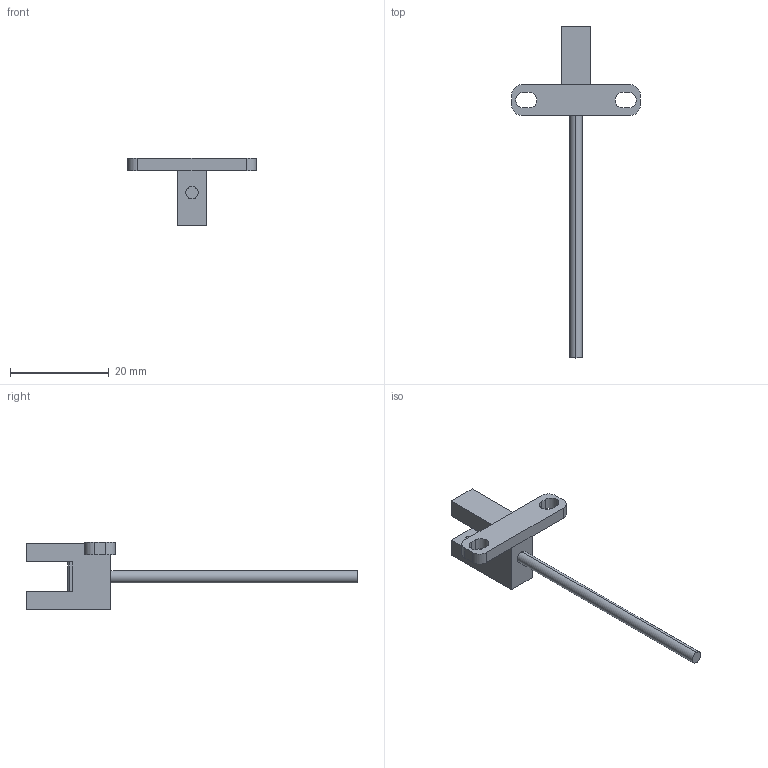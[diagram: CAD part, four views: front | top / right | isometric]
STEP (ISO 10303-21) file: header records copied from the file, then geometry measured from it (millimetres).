
FILE_DESCRIPTION (( 'STEP AP203' ), '1' );
FILE_NAME ('pm-t45.STEP', '2015-03-16T10:32:16', ( '' ), ( '' ), 'SwSTEP 2.0', 'SolidWorks 2010', '' );
FILE_SCHEMA (( 'CONFIG_CONTROL_DESIGN' ));
Length unit declared in the file: millimetre
Products named in the file (1): pm-t45
Bounding box: 26 x 67.2 x 13.7 mm (x, y, z)
Volume: 1585.7 mm3; surface area: 1591.8 mm2
Topology: 1 solids, 1 shells, 65 faces, 174 edges, 116 vertices
Faces by surface type: plane 53, cylinder 12
Entity records: 2097 total; most frequent: CARTESIAN_POINT 356, ORIENTED_EDGE 348, DIRECTION 330, EDGE_CURVE 174, VECTOR 150, LINE 150, VERTEX_POINT 116, AXIS2_PLACEMENT_3D 90
